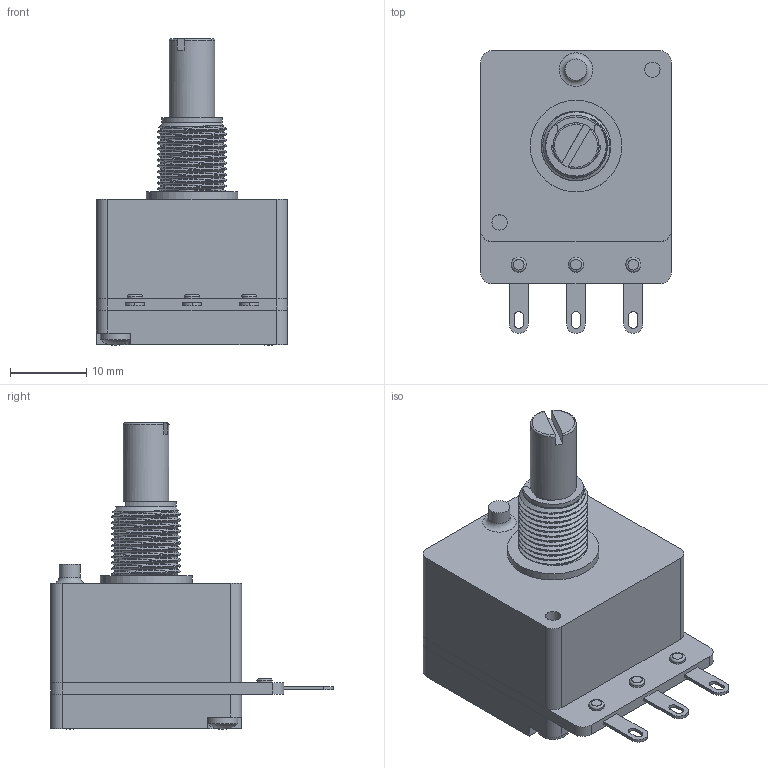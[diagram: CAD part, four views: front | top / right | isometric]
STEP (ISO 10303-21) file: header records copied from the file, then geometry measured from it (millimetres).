
FILE_DESCRIPTION(('FreeCAD Model'),'2;1');
FILE_NAME('Open CASCADE Shape Model','2024-02-26T16:13:38',(''),(''), 'Open CASCADE STEP processor 7.6','FreeCAD','Unknown');
FILE_SCHEMA(('AUTOMOTIVE_DESIGN { 1 0 10303 214 1 1 1 1 }'));
Length unit declared in the file: millimetre
Products named in the file (1): cp25xx-s20
Bounding box: 25 x 37 x 40.07 mm (x, y, z)
Volume: 12909.7 mm3; surface area: 4534.1 mm2
Topology: 1 solids, 6 shells, 246 faces, 595 edges, 365 vertices
Faces by surface type: plane 113, cylinder 72, bspline 38, cone 12, torus 7, sphere 2, revolution 2
Full cylindrical faces by diameter (mm): 1.9 x2, 2 x9, 2.2 x2, 2.8 x1, 4.5 x1, 5.4 x1, 6 x1, 6.05 x1, 8 x1, 9.09 x11, 12 x1
Entity records: 24425 total; most frequent: CARTESIAN_POINT 12736, DIRECTION 1920, ORIENTED_EDGE 1184, PCURVE 1184, DEFINITIONAL_REPRESENTATION 1184, LINE 874, VECTOR 874, EDGE_CURVE 592
